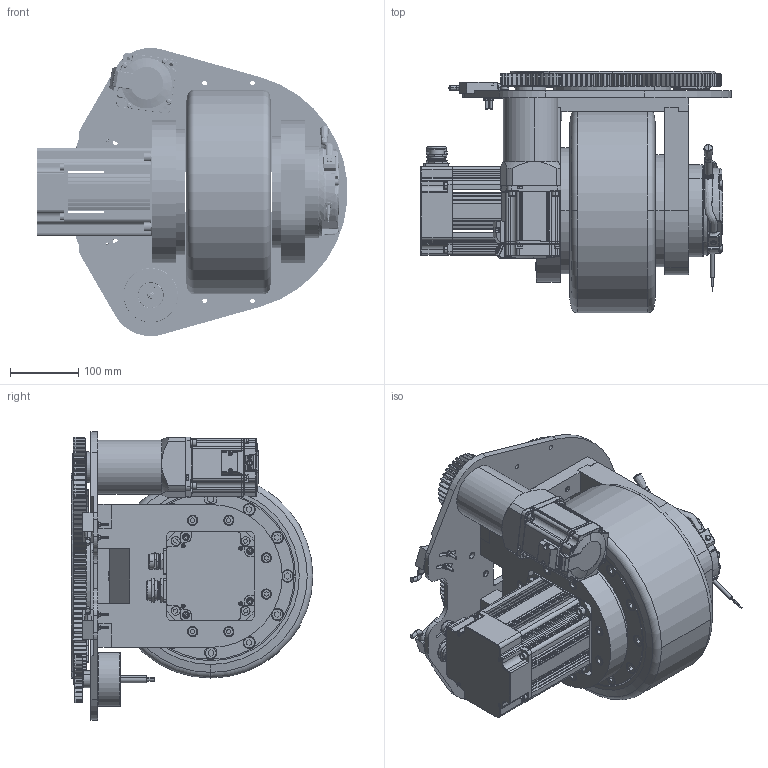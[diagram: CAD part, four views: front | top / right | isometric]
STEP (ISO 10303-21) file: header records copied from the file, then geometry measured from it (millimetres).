
FILE_DESCRIPTION (( 'STEP AP214' ), '1' );
FILE_NAME ('TEC-300P3000SP-48HS.STEP', '2022-01-13T03:31:39', ( 'admin' ), ( 'Microsoft' ), 'SwSTEP 2.0', 'SolidWorks 2012', '' );
FILE_SCHEMA (( 'AUTOMOTIVE_DESIGN' ));
Length unit declared in the file: millimetre
Products named in the file (1): TEC-300P3000SP-48HS
Bounding box: 456.1 x 355 x 423.38 mm (x, y, z)
Surface area: 1489890.2 mm2 (no closed solid volume)
Topology: 0 solids, 215 shells, 3048 faces, 10892 edges, 7857 vertices
Faces by surface type: cylinder 1122, plane 963, bspline 557, cone 326, torus 80
Entity records: 188302 total; most frequent: CARTESIAN_POINT 68059, DIRECTION 16726, ORIENTED_EDGE 16721, EDGE_CURVE 10868, VERTEX_POINT 7857, AXIS2_PLACEMENT_3D 5953, VECTOR 4820, LINE 4820
